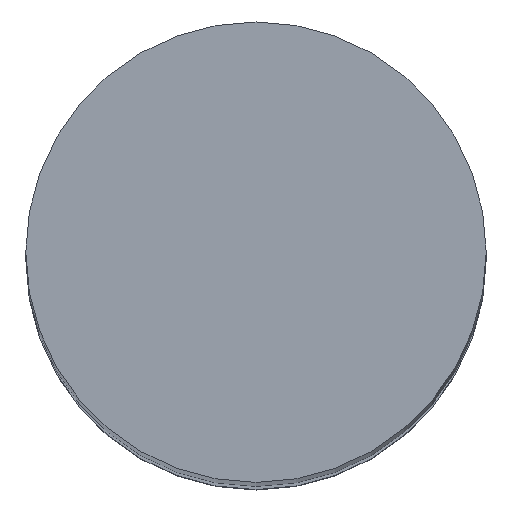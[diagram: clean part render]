
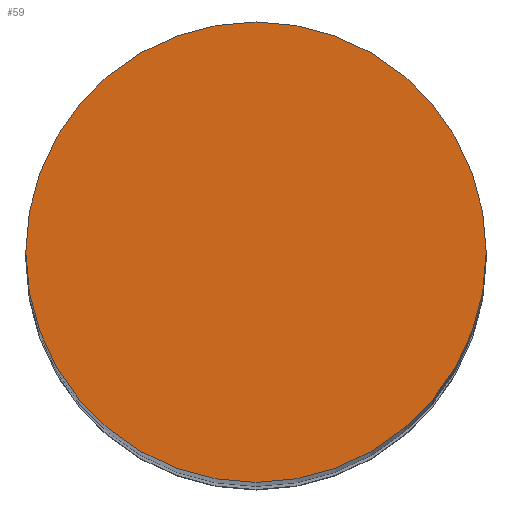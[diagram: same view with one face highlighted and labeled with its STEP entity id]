
A CAD part, top view. The second image highlights one B-rep face of the part: STEP entity #59.
In plain terms, the highlighted planar face has unit normal (0, 0, 1).
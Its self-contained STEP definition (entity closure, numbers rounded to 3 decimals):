
#59=ADVANCED_FACE('',(#113),#114,.T.);
#113=FACE_OUTER_BOUND('',#158,.T.);
#114=PLANE('',#159);
#158=EDGE_LOOP('',(#249,#250));
#159=AXIS2_PLACEMENT_3D('',#251,#252,#253);
#249=ORIENTED_EDGE('',*,*,#287,.T.);
#250=ORIENTED_EDGE('',*,*,#257,.T.);
#251=CARTESIAN_POINT('',(0.0,0.0,0.0));
#252=DIRECTION('',(0.0,0.0,1.0));
#253=DIRECTION('',(1.0,0.0,0.0));
#257=EDGE_CURVE('',#294,#291,#295,.T.);
#287=EDGE_CURVE('',#291,#294,#335,.T.);
#291=VERTEX_POINT('',#339);
#294=VERTEX_POINT('',#343);
#295=CIRCLE('',#344,3.0);
#335=CIRCLE('',#391,3.0);
#339=CARTESIAN_POINT('',(-3.0,0.0,0.0));
#343=CARTESIAN_POINT('',(3.0,0.,0.0));
#344=AXIS2_PLACEMENT_3D('',#395,#396,#397);
#391=AXIS2_PLACEMENT_3D('',#441,#442,#443);
#395=CARTESIAN_POINT('',(0.0,0.0,0.0));
#396=DIRECTION('',(0.0,0.0,1.0));
#397=DIRECTION('',(-1.0,0.0,0.0));
#441=CARTESIAN_POINT('',(0.0,0.0,0.0));
#442=DIRECTION('',(0.0,0.0,1.0));
#443=DIRECTION('',(-1.0,0.0,0.0));
